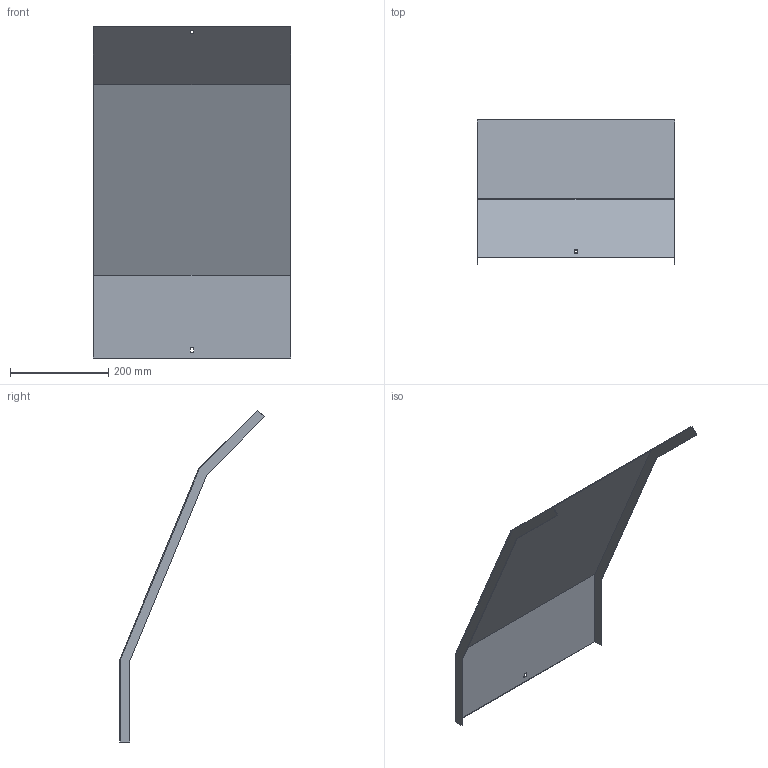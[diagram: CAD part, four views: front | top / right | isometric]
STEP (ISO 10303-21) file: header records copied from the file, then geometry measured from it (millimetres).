
FILE_DESCRIPTION (( 'STEP AP214' ), '1' );
FILE_NAME ('34N5C400.step', '2025-02-21T10:32:26', ( '' ), ( '' ), 'SwSTEP 2.0', 'SolidWorks 2023', '' );
FILE_SCHEMA (( 'AUTOMOTIVE_DESIGN' ));
Length unit declared in the file: millimetre
Products named in the file (1): 34N5C400
Bounding box: 403 x 294.72 x 677.38 mm (x, y, z)
Volume: 499871.6 mm3; surface area: 670139.3 mm2
Topology: 1 solids, 1 shells, 26 faces, 72 edges, 48 vertices
Faces by surface type: plane 26
Entity records: 847 total; most frequent: CARTESIAN_POINT 147, ORIENTED_EDGE 144, DIRECTION 126, EDGE_CURVE 72, VECTOR 72, LINE 72, VERTEX_POINT 48, EDGE_LOOP 30
